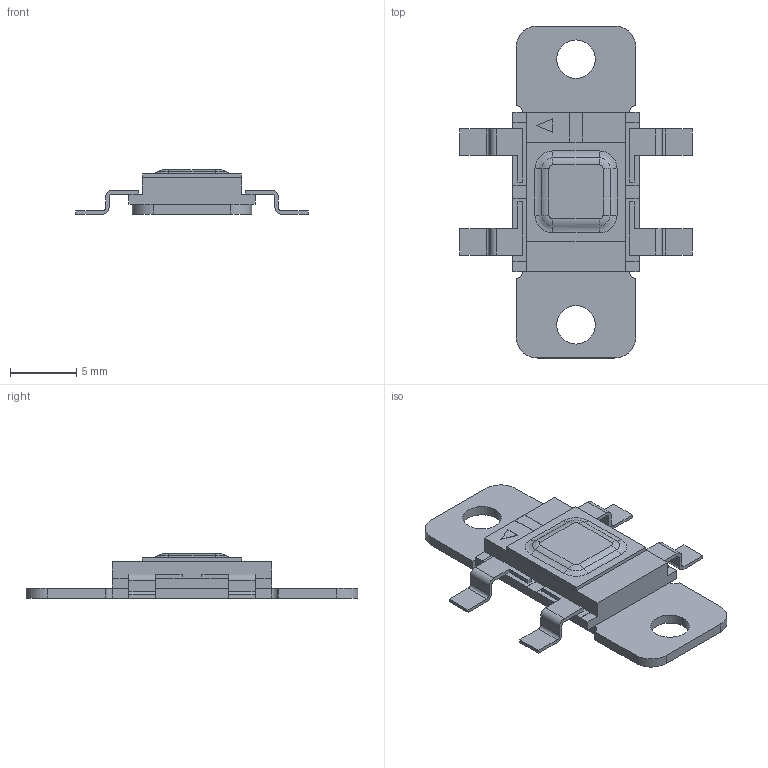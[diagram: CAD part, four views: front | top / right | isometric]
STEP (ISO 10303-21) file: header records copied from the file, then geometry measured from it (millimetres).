
FILE_DESCRIPTION (( 'STEP AP214' ), '1' );
FILE_NAME ('4116.4-3.STEP', '2016-01-31T14:12:58', ( '' ), ( '' ), 'SwSTEP 2.0', 'SolidWorks 2016', '' );
FILE_SCHEMA (( 'AUTOMOTIVE_DESIGN' ));
Length unit declared in the file: millimetre
Products named in the file (2): 4116.4-3
Bounding box: 17.5 x 25 x 3.35 mm (x, y, z)
Volume: 384.3 mm3; surface area: 694.7 mm2
Topology: 2 solids, 2 shells, 146 faces, 393 edges, 254 vertices
Faces by surface type: plane 102, cylinder 36, bspline 8
Entity records: 5878 total; most frequent: CARTESIAN_POINT 1650, ORIENTED_EDGE 786, DIRECTION 707, EDGE_CURVE 393, VECTOR 309, LINE 309, VERTEX_POINT 254, AXIS2_PLACEMENT_3D 199
